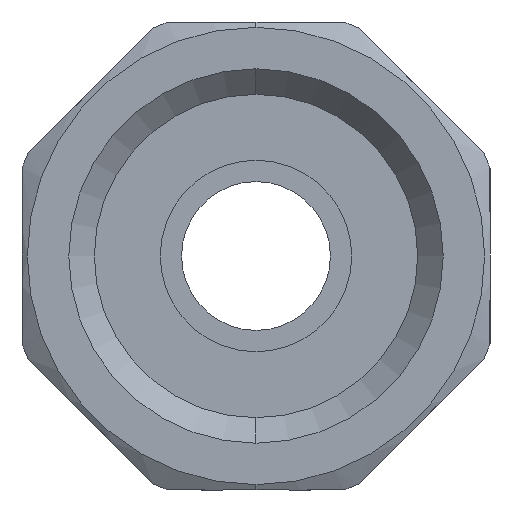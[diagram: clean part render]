
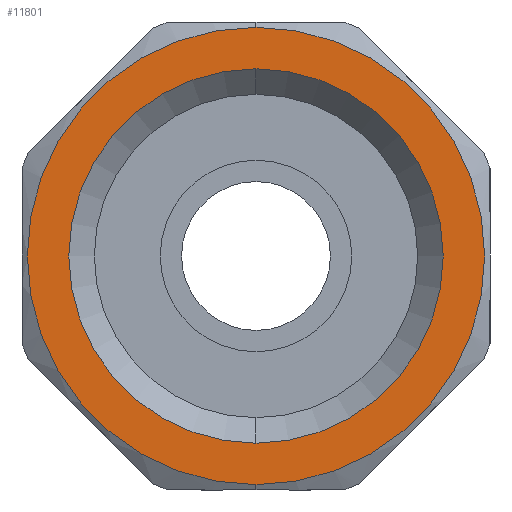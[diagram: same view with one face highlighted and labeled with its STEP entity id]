
A CAD part, front view. The second image highlights one B-rep face of the part: STEP entity #11801.
In plain terms, the highlighted planar face has unit normal (0, -1, 0).
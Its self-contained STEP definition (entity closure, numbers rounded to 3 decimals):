
#233 = DIRECTION ( 'NONE',  ( 0., 0., -1. ) ) ;
#340 = CIRCLE ( 'NONE', #10243, 10.75 ) ;
#437 = ORIENTED_EDGE ( 'NONE', *, *, #934, .T. ) ;
#691 = EDGE_LOOP ( 'NONE', ( #7333, #11689 ) ) ;
#934 = EDGE_CURVE ( 'NONE', #10389, #4042, #5828, .T. ) ;
#1543 = CIRCLE ( 'NONE', #6765, 8.8 ) ;
#1654 = AXIS2_PLACEMENT_3D ( 'NONE', #10117, #1672, #7433 ) ;
#1672 = DIRECTION ( 'NONE',  ( 0., -1., 0. ) ) ;
#1712 = DIRECTION ( 'NONE',  ( 0., -1., 0. ) ) ;
#2279 = DIRECTION ( 'NONE',  ( 0., -1., 0. ) ) ;
#2298 = CARTESIAN_POINT ( 'NONE',  ( 0., 0., 8.8 ) ) ;
#2317 = CARTESIAN_POINT ( 'NONE',  ( 0., 0., 10.75 ) ) ;
#3059 = CARTESIAN_POINT ( 'NONE',  ( 0., 0., 0. ) ) ;
#3610 = FACE_BOUND ( 'NONE', #691, .T. ) ;
#4042 = VERTEX_POINT ( 'NONE', #2317 ) ;
#4343 = CARTESIAN_POINT ( 'NONE',  ( 0., 0., 0. ) ) ;
#4453 = DIRECTION ( 'NONE',  ( 0., 0., -1. ) ) ;
#5444 = AXIS2_PLACEMENT_3D ( 'NONE', #8943, #2279, #8074 ) ;
#5477 = VERTEX_POINT ( 'NONE', #7394 ) ;
#5617 = DIRECTION ( 'NONE',  ( 0., 1., 0. ) ) ;
#5828 = CIRCLE ( 'NONE', #5444, 10.75 ) ;
#5984 = ORIENTED_EDGE ( 'NONE', *, *, #6786, .T. ) ;
#6028 = EDGE_CURVE ( 'NONE', #5477, #6491, #1543, .T. ) ;
#6279 = FACE_OUTER_BOUND ( 'NONE', #8600, .T. ) ;
#6491 = VERTEX_POINT ( 'NONE', #2298 ) ;
#6559 = EDGE_CURVE ( 'NONE', #6491, #5477, #11845, .T. ) ;
#6641 = CARTESIAN_POINT ( 'NONE',  ( 0., 0., 0. ) ) ;
#6765 = AXIS2_PLACEMENT_3D ( 'NONE', #3059, #9321, #233 ) ;
#6777 = AXIS2_PLACEMENT_3D ( 'NONE', #6641, #5617, #9343 ) ;
#6786 = EDGE_CURVE ( 'NONE', #4042, #10389, #340, .T. ) ;
#7333 = ORIENTED_EDGE ( 'NONE', *, *, #6028, .T. ) ;
#7394 = CARTESIAN_POINT ( 'NONE',  ( 0., 0., -8.8 ) ) ;
#7433 = DIRECTION ( 'NONE',  ( 0., 0., -1. ) ) ;
#8074 = DIRECTION ( 'NONE',  ( 0., 0., -1. ) ) ;
#8364 = PLANE ( 'NONE',  #1654 ) ;
#8600 = EDGE_LOOP ( 'NONE', ( #5984, #437 ) ) ;
#8943 = CARTESIAN_POINT ( 'NONE',  ( 0., 0., 0. ) ) ;
#9277 = CARTESIAN_POINT ( 'NONE',  ( 0., 0., -10.75 ) ) ;
#9321 = DIRECTION ( 'NONE',  ( 0., 1., 0. ) ) ;
#9343 = DIRECTION ( 'NONE',  ( 0., 0., -1. ) ) ;
#10117 = CARTESIAN_POINT ( 'NONE',  ( 0., 0., 0. ) ) ;
#10243 = AXIS2_PLACEMENT_3D ( 'NONE', #4343, #1712, #4453 ) ;
#10389 = VERTEX_POINT ( 'NONE', #9277 ) ;
#11689 = ORIENTED_EDGE ( 'NONE', *, *, #6559, .T. ) ;
#11801 = ADVANCED_FACE ( 'NONE', ( #3610, #6279 ), #8364, .T. ) ;
#11845 = CIRCLE ( 'NONE', #6777, 8.8 ) ;
